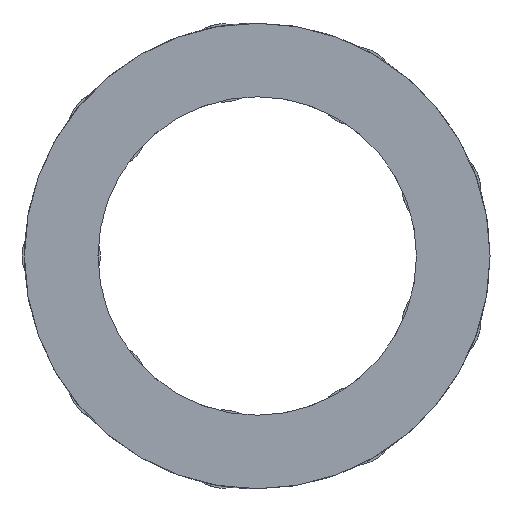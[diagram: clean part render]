
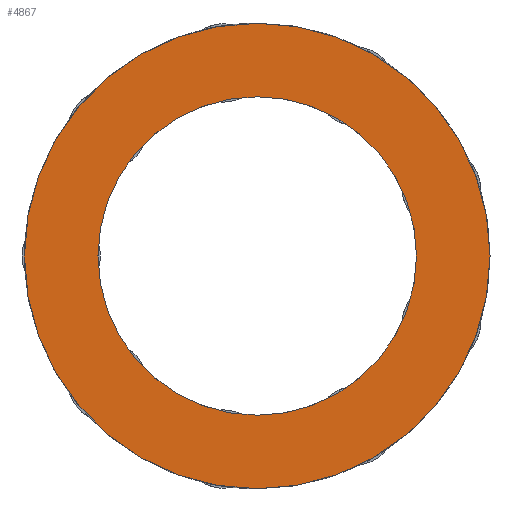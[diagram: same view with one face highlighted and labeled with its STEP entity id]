
A CAD part, front view. The second image highlights one B-rep face of the part: STEP entity #4867.
In plain terms, the highlighted planar face has unit normal (0, -1, 0).
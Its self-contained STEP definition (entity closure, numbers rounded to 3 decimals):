
#212 = CIRCLE ( 'NONE', #2880, 47.5 ) ;
#279 = CARTESIAN_POINT ( 'NONE',  ( 0., -19., -47.5 ) ) ;
#401 = AXIS2_PLACEMENT_3D ( 'NONE', #3837, #2273, #1885 ) ;
#467 = ORIENTED_EDGE ( 'NONE', *, *, #1465, .T. ) ;
#476 = DIRECTION ( 'NONE',  ( 0., 0., -1. ) ) ;
#1016 = CIRCLE ( 'NONE', #3196, 32.5 ) ;
#1243 = DIRECTION ( 'NONE',  ( 0., 0., -1. ) ) ;
#1276 = DIRECTION ( 'NONE',  ( 0., -1., 0. ) ) ;
#1414 = CARTESIAN_POINT ( 'NONE',  ( 0., -19., 0. ) ) ;
#1462 = EDGE_CURVE ( 'NONE', #3832, #4000, #1016, .T. ) ;
#1465 = EDGE_CURVE ( 'NONE', #2026, #2350, #4015, .T. ) ;
#1798 = CARTESIAN_POINT ( 'NONE',  ( 0., -19., -32.5 ) ) ;
#1885 = DIRECTION ( 'NONE',  ( 0., 0., 1. ) ) ;
#1959 = ORIENTED_EDGE ( 'NONE', *, *, #1462, .F. ) ;
#2026 = VERTEX_POINT ( 'NONE', #4242 ) ;
#2239 = EDGE_LOOP ( 'NONE', ( #3392, #467 ) ) ;
#2273 = DIRECTION ( 'NONE',  ( 0., 1., 0. ) ) ;
#2279 = EDGE_CURVE ( 'NONE', #4000, #3832, #4066, .T. ) ;
#2350 = VERTEX_POINT ( 'NONE', #279 ) ;
#2385 = CARTESIAN_POINT ( 'NONE',  ( 0., -19., 32.5 ) ) ;
#2428 = CARTESIAN_POINT ( 'NONE',  ( 0., -19., 0. ) ) ;
#2451 = CARTESIAN_POINT ( 'NONE',  ( 0., -19., 0. ) ) ;
#2546 = FACE_BOUND ( 'NONE', #4634, .T. ) ;
#2554 = AXIS2_PLACEMENT_3D ( 'NONE', #2451, #4376, #3616 ) ;
#2788 = FACE_OUTER_BOUND ( 'NONE', #2239, .T. ) ;
#2880 = AXIS2_PLACEMENT_3D ( 'NONE', #1414, #3306, #4100 ) ;
#3196 = AXIS2_PLACEMENT_3D ( 'NONE', #2428, #1276, #1243 ) ;
#3217 = CARTESIAN_POINT ( 'NONE',  ( 0., -19., 0. ) ) ;
#3306 = DIRECTION ( 'NONE',  ( 0., -1., 0. ) ) ;
#3392 = ORIENTED_EDGE ( 'NONE', *, *, #4216, .T. ) ;
#3616 = DIRECTION ( 'NONE',  ( 0., 0., -1. ) ) ;
#3657 = ORIENTED_EDGE ( 'NONE', *, *, #2279, .F. ) ;
#3832 = VERTEX_POINT ( 'NONE', #2385 ) ;
#3837 = CARTESIAN_POINT ( 'NONE',  ( 0., -19., 32.5 ) ) ;
#4000 = VERTEX_POINT ( 'NONE', #1798 ) ;
#4015 = CIRCLE ( 'NONE', #4786, 47.5 ) ;
#4066 = CIRCLE ( 'NONE', #2554, 32.5 ) ;
#4100 = DIRECTION ( 'NONE',  ( 0., 0., -1. ) ) ;
#4216 = EDGE_CURVE ( 'NONE', #2350, #2026, #212, .T. ) ;
#4242 = CARTESIAN_POINT ( 'NONE',  ( 0., -19., 47.5 ) ) ;
#4376 = DIRECTION ( 'NONE',  ( 0., -1., 0. ) ) ;
#4560 = PLANE ( 'NONE',  #401 ) ;
#4634 = EDGE_LOOP ( 'NONE', ( #3657, #1959 ) ) ;
#4712 = DIRECTION ( 'NONE',  ( 0., -1., 0. ) ) ;
#4786 = AXIS2_PLACEMENT_3D ( 'NONE', #3217, #4712, #476 ) ;
#4867 = ADVANCED_FACE ( 'NONE', ( #2546, #2788 ), #4560, .F. ) ;
